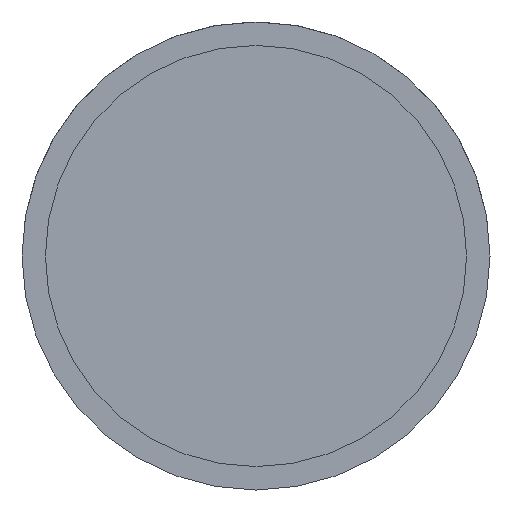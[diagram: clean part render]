
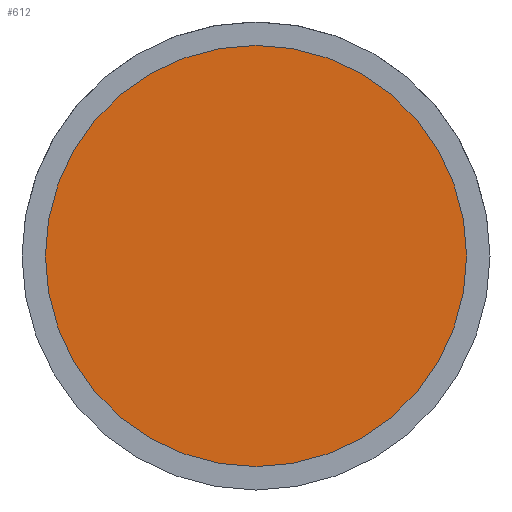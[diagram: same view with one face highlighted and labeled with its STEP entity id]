
A CAD part, left-side view. The second image highlights one B-rep face of the part: STEP entity #612.
In plain terms, the highlighted planar face has unit normal (-1, 0, 0).
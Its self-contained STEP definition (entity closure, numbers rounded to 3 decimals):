
#31 = FACE_OUTER_BOUND ( 'NONE', #1171, .T. ) ;
#75 = PLANE ( 'NONE',  #816 ) ;
#149 = CARTESIAN_POINT ( 'NONE',  ( 904., 0., 1190.5 ) ) ;
#474 = AXIS2_PLACEMENT_3D ( 'NONE', #692, #2109, #671 ) ;
#538 = CARTESIAN_POINT ( 'NONE',  ( 904., 0., 1159. ) ) ;
#612 = ADVANCED_FACE ( 'NONE', ( #31 ), #75, .F. ) ;
#671 = DIRECTION ( 'NONE',  ( 0., 1., 0. ) ) ;
#692 = CARTESIAN_POINT ( 'NONE',  ( 904., 0., 1159. ) ) ;
#706 = AXIS2_PLACEMENT_3D ( 'NONE', #538, #1609, #2141 ) ;
#816 = AXIS2_PLACEMENT_3D ( 'NONE', #1312, #2055, #2202 ) ;
#919 = EDGE_CURVE ( 'NONE', #1661, #2147, #1417, .T. ) ;
#1171 = EDGE_LOOP ( 'NONE', ( #2026, #1327 ) ) ;
#1258 = EDGE_CURVE ( 'NONE', #2147, #1661, #1898, .T. ) ;
#1312 = CARTESIAN_POINT ( 'NONE',  ( 904., 0., 1189. ) ) ;
#1327 = ORIENTED_EDGE ( 'NONE', *, *, #1258, .T. ) ;
#1417 = CIRCLE ( 'NONE', #706, 31.5 ) ;
#1609 = DIRECTION ( 'NONE',  ( -1., 0., 0. ) ) ;
#1661 = VERTEX_POINT ( 'NONE', #1767 ) ;
#1767 = CARTESIAN_POINT ( 'NONE',  ( 904., 0., 1127.5 ) ) ;
#1898 = CIRCLE ( 'NONE', #474, 31.5 ) ;
#2026 = ORIENTED_EDGE ( 'NONE', *, *, #919, .T. ) ;
#2055 = DIRECTION ( 'NONE',  ( 1., 0., 0. ) ) ;
#2109 = DIRECTION ( 'NONE',  ( -1., 0., 0. ) ) ;
#2141 = DIRECTION ( 'NONE',  ( 0., 1., 0. ) ) ;
#2147 = VERTEX_POINT ( 'NONE', #149 ) ;
#2202 = DIRECTION ( 'NONE',  ( 0., 0., -1. ) ) ;
